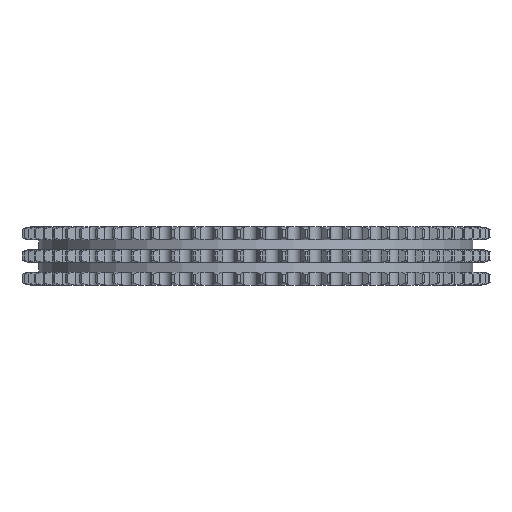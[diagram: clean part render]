
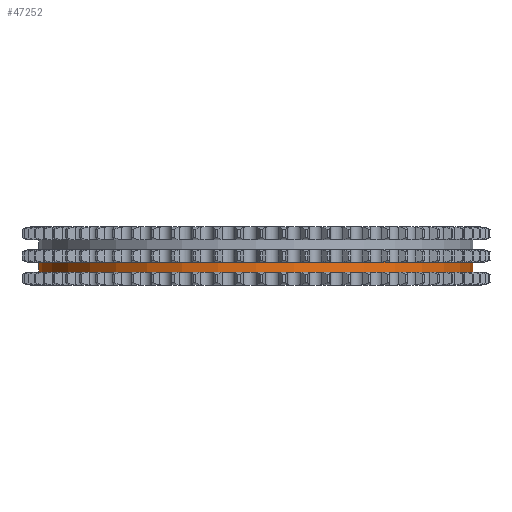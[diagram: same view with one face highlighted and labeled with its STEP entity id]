
A CAD part, left-side view. The second image highlights one B-rep face of the part: STEP entity #47252.
In plain terms, the highlighted cylindrical face has radius 186.15 mm (diameter 372.301 mm), a partial arc.
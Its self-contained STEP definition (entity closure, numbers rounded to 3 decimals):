
#8064=CARTESIAN_POINT('',(0.,0.,-13.8));
#8065=DIRECTION('',(0.,0.,1.));
#8066=DIRECTION('',(0.,1.,0.));
#8067=AXIS2_PLACEMENT_3D('',#8064,#8065,#8066);
#8592=DIRECTION('',(0.,0.,-1.));
#8593=VECTOR('',#8592,8.25);
#8594=CARTESIAN_POINT('',(0.,186.15,-5.55));
#8595=LINE('',#8594,#8593);
#8599=CARTESIAN_POINT('',(0.,0.,-5.55));
#8600=DIRECTION('',(0.,0.,1.));
#8601=DIRECTION('',(0.,1.,0.));
#8602=AXIS2_PLACEMENT_3D('',#8599,#8600,#8601);
#8607=DIRECTION('',(0.,0.,-1.));
#8608=VECTOR('',#8607,8.25);
#8609=CARTESIAN_POINT('',(0.,-186.15,-5.55));
#8610=LINE('',#8609,#8608);
#37325=CARTESIAN_POINT('',(0.,186.15,-5.55));
#37326=CARTESIAN_POINT('',(0.,186.15,-13.8));
#37327=VERTEX_POINT('',#37325);
#37328=VERTEX_POINT('',#37326);
#37329=CARTESIAN_POINT('',(0.,-186.15,-5.55));
#37330=CARTESIAN_POINT('',(0.,-186.15,-13.8));
#37331=VERTEX_POINT('',#37329);
#37332=VERTEX_POINT('',#37330);
#47238=CARTESIAN_POINT('',(0.,0.,15.18));
#47239=DIRECTION('',(0.,0.,-1.));
#47240=DIRECTION('',(0.,-1.,0.));
#47241=AXIS2_PLACEMENT_3D('',#47238,#47239,#47240);
#47242=CYLINDRICAL_SURFACE('',#47241,186.15);
#47244=ORIENTED_EDGE('',*,*,#47243,.F.);
#47246=ORIENTED_EDGE('',*,*,#47245,.T.);
#47248=ORIENTED_EDGE('',*,*,#47247,.T.);
#47249=ORIENTED_EDGE('',*,*,#47231,.F.);
#47250=EDGE_LOOP('',(#47244,#47246,#47248,#47249));
#47251=FACE_OUTER_BOUND('',#47250,.F.);
#47252=ADVANCED_FACE('',(#47251),#47242,.T.);
#8068=CIRCLE('',#8067,186.15);
#8603=CIRCLE('',#8602,186.15);
#47231=EDGE_CURVE('',#37328,#37332,#8068,.T.);
#47243=EDGE_CURVE('',#37327,#37328,#8595,.T.);
#47245=EDGE_CURVE('',#37327,#37331,#8603,.T.);
#47247=EDGE_CURVE('',#37331,#37332,#8610,.T.);
